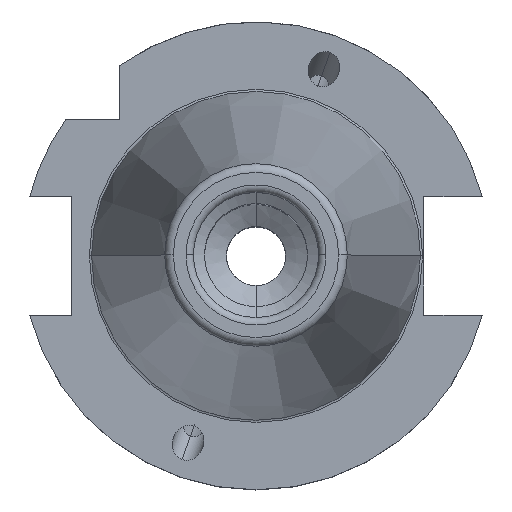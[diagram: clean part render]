
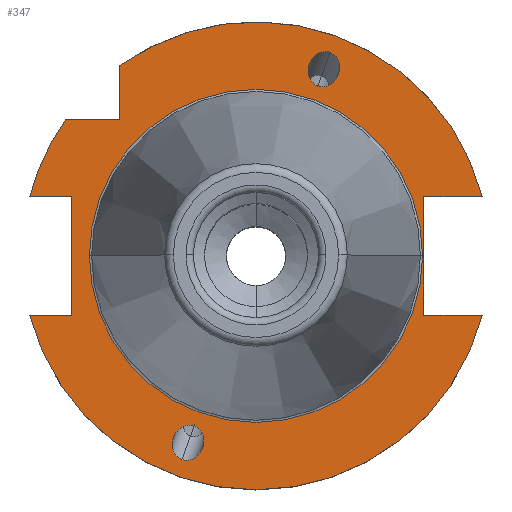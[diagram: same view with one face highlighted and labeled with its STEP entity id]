
A CAD part, top view. The second image highlights one B-rep face of the part: STEP entity #347.
In plain terms, the highlighted planar face has unit normal (0, 0, 1).
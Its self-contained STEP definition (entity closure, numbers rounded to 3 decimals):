
#347=ADVANCED_FACE('',(#706,#707,#708,#709),#710,.T.);
#706=FACE_OUTER_BOUND('',#1074,.T.);
#707=FACE_BOUND('',#1075,.T.);
#708=FACE_BOUND('',#1076,.T.);
#709=FACE_BOUND('',#1077,.T.);
#710=PLANE('',#1078);
#1074=EDGE_LOOP('',(#2043,#2044,#2045,#2046,#2047,#2048,#2049,#2050,#2051,#2052,#2053));
#1075=EDGE_LOOP('',(#2054,#2055));
#1076=EDGE_LOOP('',(#2056,#2057));
#1077=EDGE_LOOP('',(#2058,#2059,#2060));
#1078=AXIS2_PLACEMENT_3D('',#2061,#2062,#2063);
#2043=ORIENTED_EDGE('',*,*,#2584,.T.);
#2044=ORIENTED_EDGE('',*,*,#2665,.T.);
#2045=ORIENTED_EDGE('',*,*,#2647,.T.);
#2046=ORIENTED_EDGE('',*,*,#2655,.T.);
#2047=ORIENTED_EDGE('',*,*,#2652,.T.);
#2048=ORIENTED_EDGE('',*,*,#2666,.T.);
#2049=ORIENTED_EDGE('',*,*,#2667,.T.);
#2050=ORIENTED_EDGE('',*,*,#2668,.T.);
#2051=ORIENTED_EDGE('',*,*,#2669,.T.);
#2052=ORIENTED_EDGE('',*,*,#2604,.T.);
#2053=ORIENTED_EDGE('',*,*,#2596,.T.);
#2054=ORIENTED_EDGE('',*,*,#2515,.T.);
#2055=ORIENTED_EDGE('',*,*,#2411,.T.);
#2056=ORIENTED_EDGE('',*,*,#2406,.T.);
#2057=ORIENTED_EDGE('',*,*,#2521,.T.);
#2058=ORIENTED_EDGE('',*,*,#2281,.F.);
#2059=ORIENTED_EDGE('',*,*,#2280,.F.);
#2060=ORIENTED_EDGE('',*,*,#2670,.F.);
#2061=CARTESIAN_POINT('',(27.233,0.0,-3.2));
#2062=DIRECTION('',(0.0,0.0,1.0));
#2063=DIRECTION('',(1.0,0.0,0.0));
#2280=EDGE_CURVE('',#2733,#2736,#2737,.T.);
#2281=EDGE_CURVE('',#2736,#2738,#2739,.T.);
#2406=EDGE_CURVE('',#2955,#2953,#2956,.T.);
#2411=EDGE_CURVE('',#2959,#2961,#2963,.T.);
#2515=EDGE_CURVE('',#2961,#2959,#3120,.T.);
#2521=EDGE_CURVE('',#2953,#2955,#3128,.T.);
#2584=EDGE_CURVE('',#3215,#3216,#3217,.T.);
#2596=EDGE_CURVE('',#3237,#3215,#3238,.T.);
#2604=EDGE_CURVE('',#3248,#3237,#3249,.T.);
#2647=EDGE_CURVE('',#3302,#3300,#3303,.T.);
#2652=EDGE_CURVE('',#3309,#3307,#3310,.T.);
#2655=EDGE_CURVE('',#3300,#3309,#3313,.T.);
#2665=EDGE_CURVE('',#3216,#3302,#3325,.T.);
#2666=EDGE_CURVE('',#3307,#3326,#3327,.T.);
#2667=EDGE_CURVE('',#3326,#3328,#3329,.T.);
#2668=EDGE_CURVE('',#3328,#3330,#3331,.T.);
#2669=EDGE_CURVE('',#3330,#3248,#3332,.T.);
#2670=EDGE_CURVE('',#2738,#2733,#3333,.T.);
#2733=VERTEX_POINT('',#3402);
#2736=VERTEX_POINT('',#3405);
#2737=CIRCLE('',#3406,22.625);
#2738=VERTEX_POINT('',#3407);
#2739=CIRCLE('',#3408,22.625);
#2953=VERTEX_POINT('',#3933);
#2955=VERTEX_POINT('',#3936);
#2956=ELLIPSE('',#3937,2.425,2.1);
#2959=VERTEX_POINT('',#3941);
#2961=VERTEX_POINT('',#3944);
#2963=ELLIPSE('',#3947,2.425,2.1);
#3120=ELLIPSE('',#4240,2.425,2.1);
#3128=ELLIPSE('',#4248,2.425,2.1);
#3215=VERTEX_POINT('',#4501);
#3216=VERTEX_POINT('',#4502);
#3217=LINE('',#4503,#4504);
#3237=VERTEX_POINT('',#4566);
#3238=LINE('',#4567,#4568);
#3248=VERTEX_POINT('',#4600);
#3249=CIRCLE('',#4601,31.775);
#3300=VERTEX_POINT('',#4703);
#3302=VERTEX_POINT('',#4706);
#3303=LINE('',#4707,#4708);
#3307=VERTEX_POINT('',#4714);
#3309=VERTEX_POINT('',#4717);
#3310=LINE('',#4718,#4719);
#3313=LINE('',#4723,#4724);
#3325=CIRCLE('',#4747,31.775);
#3326=VERTEX_POINT('',#4748);
#3327=CIRCLE('',#4749,31.775);
#3328=VERTEX_POINT('',#4750);
#3329=LINE('',#4751,#4752);
#3330=VERTEX_POINT('',#4753);
#3331=LINE('',#4754,#4755);
#3332=LINE('',#4756,#4757);
#3333=CIRCLE('',#4758,22.625);
#3402=CARTESIAN_POINT('',(22.625,0.,-3.2));
#3405=CARTESIAN_POINT('',(0.0,22.625,-3.2));
#3406=AXIS2_PLACEMENT_3D('',#4855,#4856,#4857);
#3407=CARTESIAN_POINT('',(-22.625,0.,-3.2));
#3408=AXIS2_PLACEMENT_3D('',#4858,#4859,#4860);
#3933=CARTESIAN_POINT('',(10.064,27.65,-3.2));
#3936=CARTESIAN_POINT('',(8.405,23.093,-3.2));
#3937=AXIS2_PLACEMENT_3D('',#5035,#5036,#5037);
#3941=CARTESIAN_POINT('',(-10.064,-27.65,-3.2));
#3944=CARTESIAN_POINT('',(-8.405,-23.093,-3.2));
#3947=AXIS2_PLACEMENT_3D('',#5041,#5042,#5043);
#4240=AXIS2_PLACEMENT_3D('',#5207,#5208,#5209);
#4248=AXIS2_PLACEMENT_3D('',#5222,#5223,#5224);
#4501=CARTESIAN_POINT('',(-18.5,18.5,-3.2));
#4502=CARTESIAN_POINT('',(-25.834,18.5,-3.2));
#4503=CARTESIAN_POINT('',(-18.5,18.5,-3.2));
#4504=VECTOR('',#5289,7.334);
#4566=CARTESIAN_POINT('',(-18.5,25.834,-3.2));
#4567=CARTESIAN_POINT('',(-18.5,25.834,-3.2));
#4568=VECTOR('',#5296,7.334);
#4600=CARTESIAN_POINT('',(30.738,8.05,-3.2));
#4601=AXIS2_PLACEMENT_3D('',#5301,#5302,#5303);
#4703=CARTESIAN_POINT('',(-25.0,8.05,-3.2));
#4706=CARTESIAN_POINT('',(-30.738,8.05,-3.2));
#4707=CARTESIAN_POINT('',(-30.738,8.05,-3.2));
#4708=VECTOR('',#5353,5.738);
#4714=CARTESIAN_POINT('',(-30.738,-8.05,-3.2));
#4717=CARTESIAN_POINT('',(-25.0,-8.05,-3.2));
#4718=CARTESIAN_POINT('',(-25.0,-8.05,-3.2));
#4719=VECTOR('',#5357,5.738);
#4723=CARTESIAN_POINT('',(-25.0,8.05,-3.2));
#4724=VECTOR('',#5359,16.1);
#4747=AXIS2_PLACEMENT_3D('',#5368,#5369,#5370);
#4748=CARTESIAN_POINT('',(30.738,-8.05,-3.2));
#4749=AXIS2_PLACEMENT_3D('',#5371,#5372,#5373);
#4750=CARTESIAN_POINT('',(22.8,-8.05,-3.2));
#4751=CARTESIAN_POINT('',(30.738,-8.05,-3.2));
#4752=VECTOR('',#5374,7.938);
#4753=CARTESIAN_POINT('',(22.8,8.05,-3.2));
#4754=CARTESIAN_POINT('',(22.8,-8.05,-3.2));
#4755=VECTOR('',#5375,16.1);
#4756=CARTESIAN_POINT('',(22.8,8.05,-3.2));
#4757=VECTOR('',#5376,7.938);
#4758=AXIS2_PLACEMENT_3D('',#5377,#5378,#5379);
#4855=CARTESIAN_POINT('',(0.0,0.0,-3.2));
#4856=DIRECTION('',(0.0,-0.0,1.0));
#4857=DIRECTION('',(0.0,1.0,0.0));
#4858=CARTESIAN_POINT('',(0.0,0.0,-3.2));
#4859=DIRECTION('',(0.0,-0.0,1.0));
#4860=DIRECTION('',(0.0,1.0,0.0));
#5035=CARTESIAN_POINT('',(9.235,25.372,-3.2));
#5036=DIRECTION('',(0.0,0.0,-1.0));
#5037=DIRECTION('',(0.342,0.94,0.0));
#5041=CARTESIAN_POINT('',(-9.235,-25.372,-3.2));
#5042=DIRECTION('',(-0.0,0.0,-1.0));
#5043=DIRECTION('',(-0.342,-0.94,0.0));
#5207=CARTESIAN_POINT('',(-9.235,-25.372,-3.2));
#5208=DIRECTION('',(-0.0,0.0,-1.0));
#5209=DIRECTION('',(-0.342,-0.94,0.0));
#5222=CARTESIAN_POINT('',(9.235,25.372,-3.2));
#5223=DIRECTION('',(0.0,0.0,-1.0));
#5224=DIRECTION('',(0.342,0.94,0.0));
#5289=DIRECTION('',(-1.0,0.0,0.0));
#5296=DIRECTION('',(0.0,-1.0,0.0));
#5301=CARTESIAN_POINT('',(0.,0.0,-3.2));
#5302=DIRECTION('',(0.,0.0,1.0));
#5303=DIRECTION('',(1.0,0.0,0.));
#5353=DIRECTION('',(1.0,0.0,0.0));
#5357=DIRECTION('',(-1.0,0.0,0.0));
#5359=DIRECTION('',(0.0,-1.0,0.0));
#5368=CARTESIAN_POINT('',(0.,0.0,-3.2));
#5369=DIRECTION('',(0.,0.0,1.0));
#5370=DIRECTION('',(1.0,0.0,0.));
#5371=CARTESIAN_POINT('',(0.,0.0,-3.2));
#5372=DIRECTION('',(0.,0.0,1.0));
#5373=DIRECTION('',(1.0,0.0,0.));
#5374=DIRECTION('',(-1.0,0.0,0.0));
#5375=DIRECTION('',(0.0,1.0,0.0));
#5376=DIRECTION('',(1.0,0.0,0.0));
#5377=CARTESIAN_POINT('',(0.0,0.0,-3.2));
#5378=DIRECTION('',(0.0,-0.0,1.0));
#5379=DIRECTION('',(0.0,1.0,0.0));
